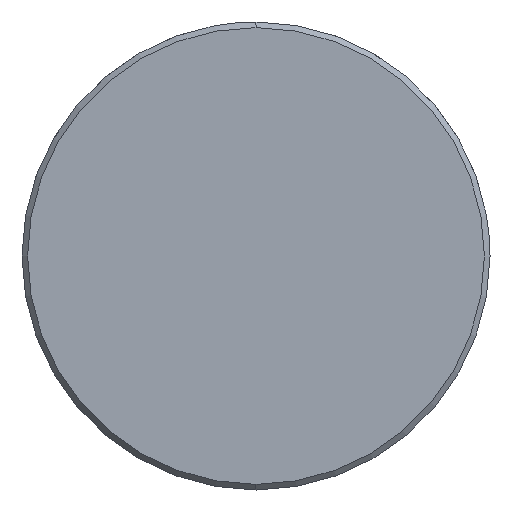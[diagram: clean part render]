
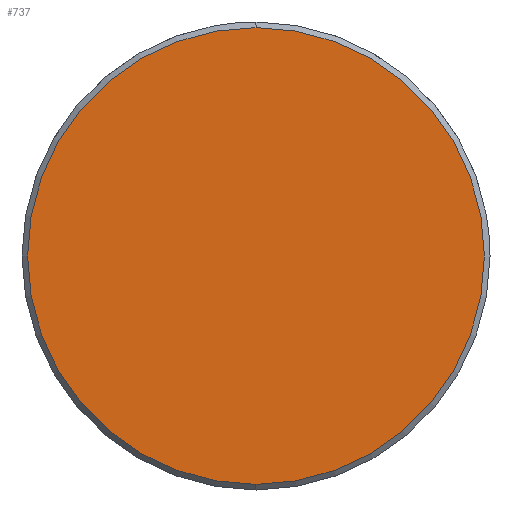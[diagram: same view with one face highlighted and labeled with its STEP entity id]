
A CAD part, left-side view. The second image highlights one B-rep face of the part: STEP entity #737.
In plain terms, the highlighted planar face has unit normal (-1, 0, 0).
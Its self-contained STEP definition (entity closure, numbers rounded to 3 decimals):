
#669=CARTESIAN_POINT('Vertex',(0.,0.,-12.2)) ;
#672=CARTESIAN_POINT('Axis2P3D Location',(0.,0.,0.)) ;
#676=CARTESIAN_POINT('Vertex',(0.,12.2,0.)) ;
#679=CARTESIAN_POINT('Axis2P3D Location',(0.,0.,0.)) ;
#683=CARTESIAN_POINT('Vertex',(0.,0.,12.2)) ;
#705=CARTESIAN_POINT('Axis2P3D Location',(0.,0.,0.)) ;
#709=CARTESIAN_POINT('Vertex',(0.,-12.2,0.)) ;
#712=CARTESIAN_POINT('Axis2P3D Location',(0.,0.,0.)) ;
#726=CARTESIAN_POINT('Axis2P3D Location',(0.,0.,0.)) ;
#673=DIRECTION('Axis2P3D Direction',(1.,0.,-0.)) ;
#680=DIRECTION('Axis2P3D Direction',(1.,0.,-0.)) ;
#706=DIRECTION('Axis2P3D Direction',(1.,0.,-0.)) ;
#713=DIRECTION('Axis2P3D Direction',(1.,0.,-0.)) ;
#727=DIRECTION('Axis2P3D Direction',(1.,0.,-0.)) ;
#728=DIRECTION('Axis2P3D XDirection',(-0.,0.,-1.)) ;
#674=AXIS2_PLACEMENT_3D('Circle Axis2P3D',#672,#673,$) ;
#681=AXIS2_PLACEMENT_3D('Circle Axis2P3D',#679,#680,$) ;
#707=AXIS2_PLACEMENT_3D('Circle Axis2P3D',#705,#706,$) ;
#714=AXIS2_PLACEMENT_3D('Circle Axis2P3D',#712,#713,$) ;
#729=AXIS2_PLACEMENT_3D('Plane Axis2P3D',#726,#727,#728) ;
#732=ORIENTED_EDGE('',*,*,#678,.F.) ;
#733=ORIENTED_EDGE('',*,*,#716,.F.) ;
#734=ORIENTED_EDGE('',*,*,#711,.F.) ;
#735=ORIENTED_EDGE('',*,*,#685,.F.) ;
#737=ADVANCED_FACE('549-22X140',(#736),#730,.F.) ;
#675=CIRCLE('generated circle',#674,12.2) ;
#682=CIRCLE('generated circle',#681,12.2) ;
#708=CIRCLE('generated circle',#707,12.2) ;
#715=CIRCLE('generated circle',#714,12.2) ;
#678=EDGE_CURVE('',#670,#677,#675,.T.) ;
#685=EDGE_CURVE('',#677,#684,#682,.T.) ;
#711=EDGE_CURVE('',#684,#710,#708,.T.) ;
#716=EDGE_CURVE('',#710,#670,#715,.T.) ;
#731=EDGE_LOOP('',(#732,#733,#734,#735)) ;
#736=FACE_OUTER_BOUND('',#731,.T.) ;
#730=PLANE('Plane',#729) ;
#670=VERTEX_POINT('',#669) ;
#677=VERTEX_POINT('',#676) ;
#684=VERTEX_POINT('',#683) ;
#710=VERTEX_POINT('',#709) ;
